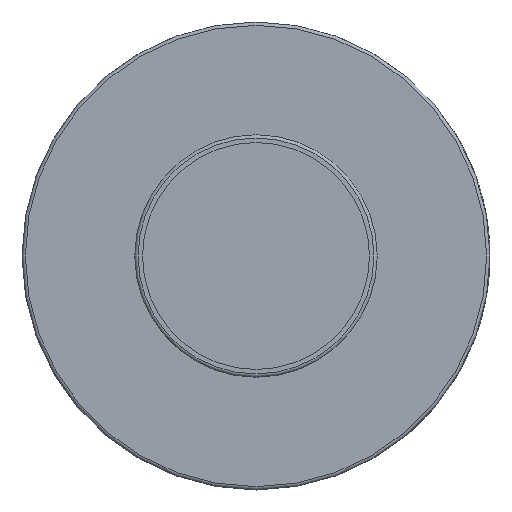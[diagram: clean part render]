
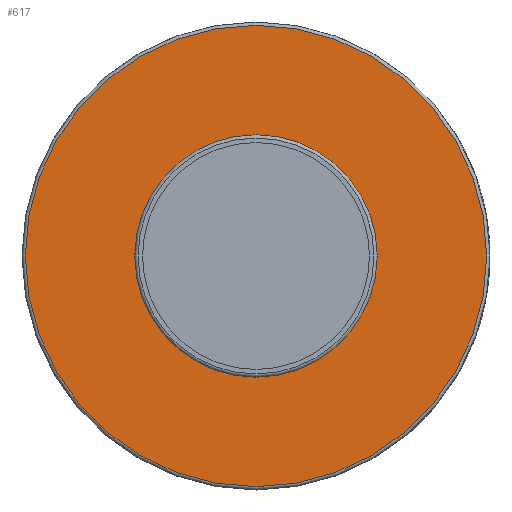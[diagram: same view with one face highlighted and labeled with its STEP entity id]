
A CAD part, left-side view. The second image highlights one B-rep face of the part: STEP entity #617.
In plain terms, the highlighted planar face has unit normal (-1, 0, 0).
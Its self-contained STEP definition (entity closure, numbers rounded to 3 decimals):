
#617 = ADVANCED_FACE( '', ( #1283, #1284 ), #1285, .F. );
#1283 = FACE_BOUND( '', #3229, .T. );
#1284 = FACE_OUTER_BOUND( '', #3230, .T. );
#1285 = PLANE( '', #3231 );
#3229 = EDGE_LOOP( '', ( #4872 ) );
#3230 = EDGE_LOOP( '', ( #4873 ) );
#3231 = AXIS2_PLACEMENT_3D( '', #4874, #4875, #4876 );
#4872 = ORIENTED_EDGE( '', *, *, #5260, .F. );
#4873 = ORIENTED_EDGE( '', *, *, #5567, .T. );
#4874 = CARTESIAN_POINT( '', ( 23.089, 0., 18.923 ) );
#4875 = DIRECTION( '', ( 1., 0., 0. ) );
#4876 = DIRECTION( '', ( 0., 0., -1. ) );
#5260 = EDGE_CURVE( '', #6168, #6168, #6169, .T. );
#5567 = EDGE_CURVE( '', #6615, #6615, #6616, .T. );
#6168 = VERTEX_POINT( '', #7787 );
#6169 = CIRCLE( '', #7788, 18.923 );
#6615 = VERTEX_POINT( '', #9152 );
#6616 = CIRCLE( '', #9153, 36.005 );
#7787 = CARTESIAN_POINT( '', ( 23.089, 0., 18.923 ) );
#7788 = AXIS2_PLACEMENT_3D( '', #9421, #9422, #9423 );
#9152 = CARTESIAN_POINT( '', ( 23.089, 0., 36.005 ) );
#9153 = AXIS2_PLACEMENT_3D( '', #9448, #9449, #9450 );
#9421 = CARTESIAN_POINT( '', ( 23.089, 0., 0. ) );
#9422 = DIRECTION( '', ( -1., 0., 0. ) );
#9423 = DIRECTION( '', ( 0., 0., 1. ) );
#9448 = CARTESIAN_POINT( '', ( 23.089, 0., 0. ) );
#9449 = DIRECTION( '', ( -1., 0., 0. ) );
#9450 = DIRECTION( '', ( 0., 0., 1. ) );
